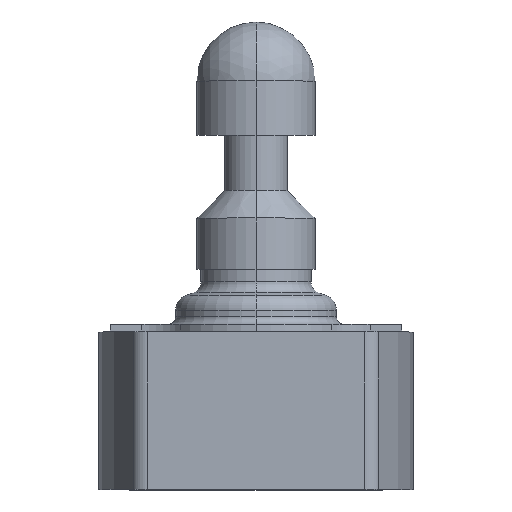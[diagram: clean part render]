
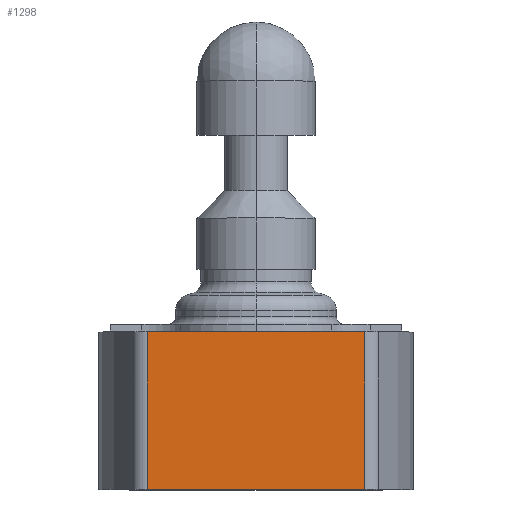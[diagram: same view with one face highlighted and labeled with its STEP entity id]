
A CAD part, top view. The second image highlights one B-rep face of the part: STEP entity #1298.
In plain terms, the highlighted planar face has unit normal (0, 0, 1).
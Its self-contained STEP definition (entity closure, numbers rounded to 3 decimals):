
#55 = CARTESIAN_POINT ( 'NONE',  ( -13.806, 20., 48.1 ) ) ;
#167 = EDGE_CURVE ( 'NONE', #3468, #2257, #3196, .T. ) ;
#262 = VECTOR ( 'NONE', #2306, 1000. ) ;
#285 = EDGE_CURVE ( 'NONE', #2397, #3468, #2189, .T. ) ;
#314 = DIRECTION ( 'NONE',  ( -1., 0., 0. ) ) ;
#435 = PLANE ( 'NONE',  #1132 ) ;
#471 = VECTOR ( 'NONE', #3416, 1000. ) ;
#516 = VERTEX_POINT ( 'NONE', #969 ) ;
#654 = LINE ( 'NONE', #3376, #3466 ) ;
#666 = VECTOR ( 'NONE', #1765, 1000. ) ;
#900 = CARTESIAN_POINT ( 'NONE',  ( -13.806, 0., 48.1 ) ) ;
#969 = CARTESIAN_POINT ( 'NONE',  ( 13.806, 20., 48.1 ) ) ;
#1098 = CARTESIAN_POINT ( 'NONE',  ( 13.806, 0., 48.1 ) ) ;
#1132 = AXIS2_PLACEMENT_3D ( 'NONE', #1300, #2735, #314 ) ;
#1179 = CARTESIAN_POINT ( 'NONE',  ( 13.806, 20., 48.1 ) ) ;
#1298 = ADVANCED_FACE ( 'NONE', ( #1609 ), #435, .F. ) ;
#1300 = CARTESIAN_POINT ( 'NONE',  ( -13.806, 20., 48.1 ) ) ;
#1316 = LINE ( 'NONE', #1179, #471 ) ;
#1609 = FACE_OUTER_BOUND ( 'NONE', #2549, .T. ) ;
#1765 = DIRECTION ( 'NONE',  ( 0., -1., 0. ) ) ;
#1829 = CARTESIAN_POINT ( 'NONE',  ( -13.806, 20., 48.1 ) ) ;
#2134 = ORIENTED_EDGE ( 'NONE', *, *, #285, .T. ) ;
#2189 = LINE ( 'NONE', #1829, #666 ) ;
#2257 = VERTEX_POINT ( 'NONE', #1098 ) ;
#2296 = CARTESIAN_POINT ( 'NONE',  ( -13.806, 0., 48.1 ) ) ;
#2306 = DIRECTION ( 'NONE',  ( 1., 0., 0. ) ) ;
#2352 = ORIENTED_EDGE ( 'NONE', *, *, #3458, .F. ) ;
#2397 = VERTEX_POINT ( 'NONE', #55 ) ;
#2481 = ORIENTED_EDGE ( 'NONE', *, *, #3487, .F. ) ;
#2549 = EDGE_LOOP ( 'NONE', ( #3180, #2481, #2352, #2134 ) ) ;
#2735 = DIRECTION ( 'NONE',  ( 0., 0., -1. ) ) ;
#3180 = ORIENTED_EDGE ( 'NONE', *, *, #167, .T. ) ;
#3196 = LINE ( 'NONE', #2296, #262 ) ;
#3376 = CARTESIAN_POINT ( 'NONE',  ( -13.806, 20., 48.1 ) ) ;
#3397 = DIRECTION ( 'NONE',  ( 1., 0., 0. ) ) ;
#3416 = DIRECTION ( 'NONE',  ( 0., -1., 0. ) ) ;
#3458 = EDGE_CURVE ( 'NONE', #2397, #516, #654, .T. ) ;
#3466 = VECTOR ( 'NONE', #3397, 1000. ) ;
#3468 = VERTEX_POINT ( 'NONE', #900 ) ;
#3487 = EDGE_CURVE ( 'NONE', #516, #2257, #1316, .T. ) ;
